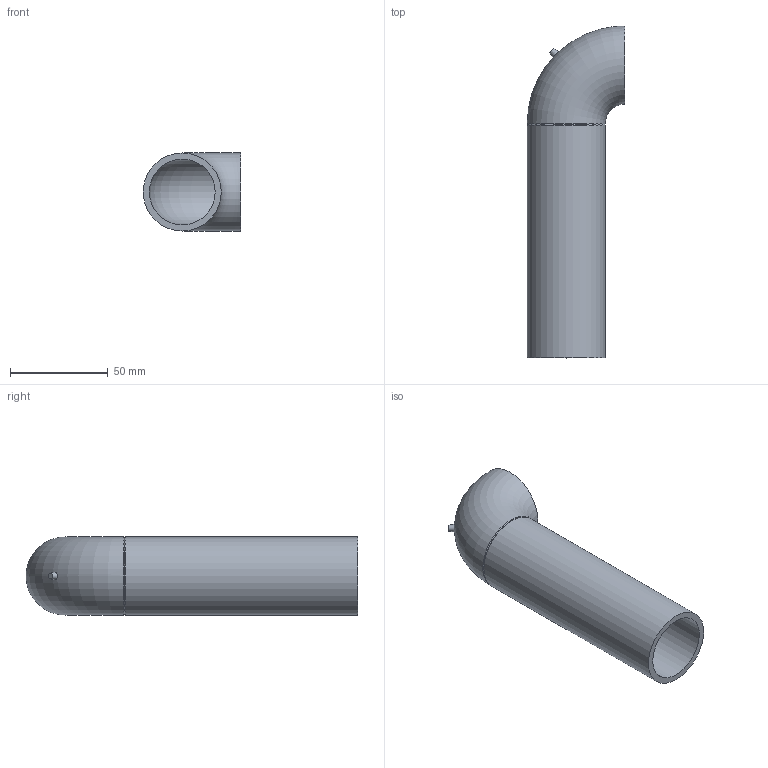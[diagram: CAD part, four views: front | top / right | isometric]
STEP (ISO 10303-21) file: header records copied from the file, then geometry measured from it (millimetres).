
FILE_DESCRIPTION(/* description */ (''),/* implementation_level */ '2;1');
FILE_NAME(/* name */ 'Z:\Geberit\Export\NewStep\360055.stp',/* time_stamp */ '2014-04-01T21:01:33+02:00',/* author */ ('bruh'),/* organization */ (''),/* preprocessor_version */ 'ST-DEVELOPER v15.2',/* originating_system */ 'Autodesk Inventor 2014',/* authorisation */ '');
FILE_SCHEMA (('AUTOMOTIVE_DESIGN { 1 0 10303 214 3 1 1 }'));
Length unit declared in the file: millimetre
Products named in the file (1): 360055
Bounding box: 50 x 170 x 40 mm (x, y, z)
Volume: 60953.9 mm3; surface area: 39493.3 mm2
Topology: 1 solids, 1 shells, 10 faces, 20 edges, 12 vertices
Faces by surface type: cone 3, plane 3, cylinder 2, torus 2
Full cylindrical faces by diameter (mm): 33.7 x1, 40 x1
Entity records: 279 total; most frequent: CARTESIAN_POINT 74, DIRECTION 40, EDGE_LOOP 20, ORIENTED_EDGE 20, AXIS2_PLACEMENT_3D 20, FACE_BOUND 11, STYLED_ITEM 11, VERTEX_POINT 10
